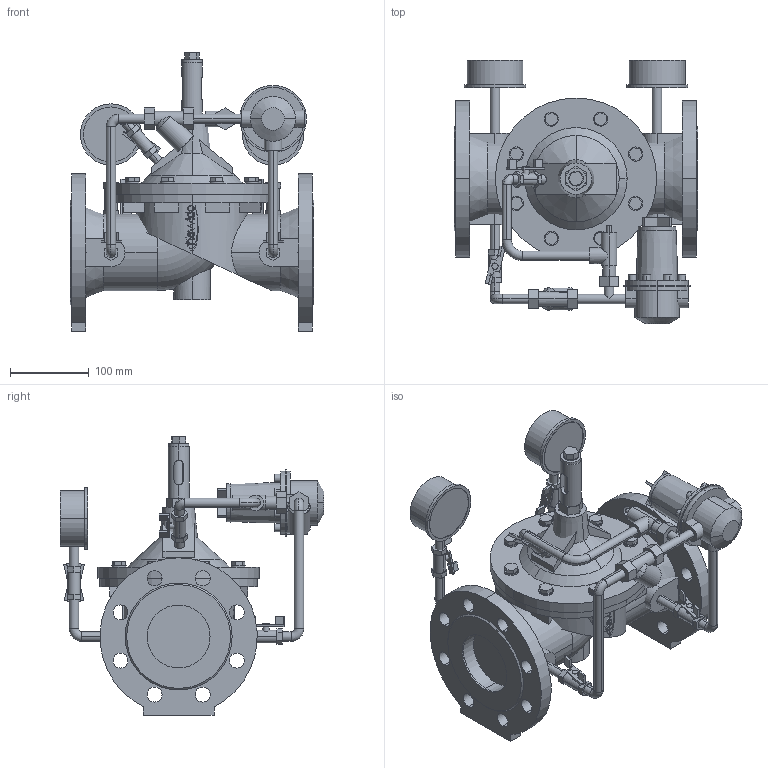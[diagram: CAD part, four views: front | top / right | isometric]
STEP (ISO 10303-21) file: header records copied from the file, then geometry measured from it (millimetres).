
FILE_DESCRIPTION(('STEP AP214'),'1');
FILE_NAME('S:/EK/USER/CAT6/3DHomepage_27-04-2012/CH-Produkte/1500/1500_PN16_DN80.STP','2013-01-18T08:38:38',(' '),(' '),'Spatial InterOp 3D',' ',' ');
FILE_SCHEMA(('automotive_design'));
Length unit declared in the file: millimetre
Products named in the file (177): 3D-Objekt
Bounding box: 310 x 335 x 353.8 mm (x, y, z)
Volume: 5803487.5 mm3; surface area: 894136.7 mm2
Topology: 177 solids, 177 shells, 1250 faces, 2691 edges, 1796 vertices
Faces by surface type: plane 864, cylinder 348, cone 22, torus 16
Entity records: 59684 total; most frequent: CARTESIAN_POINT 17539, DIRECTION 6305, ORIENTED_EDGE 5384, EDGE_CURVE 2692, AXIS2_PLACEMENT_3D 2217, LINE 1871, VECTOR 1871, VERTEX_POINT 1797
